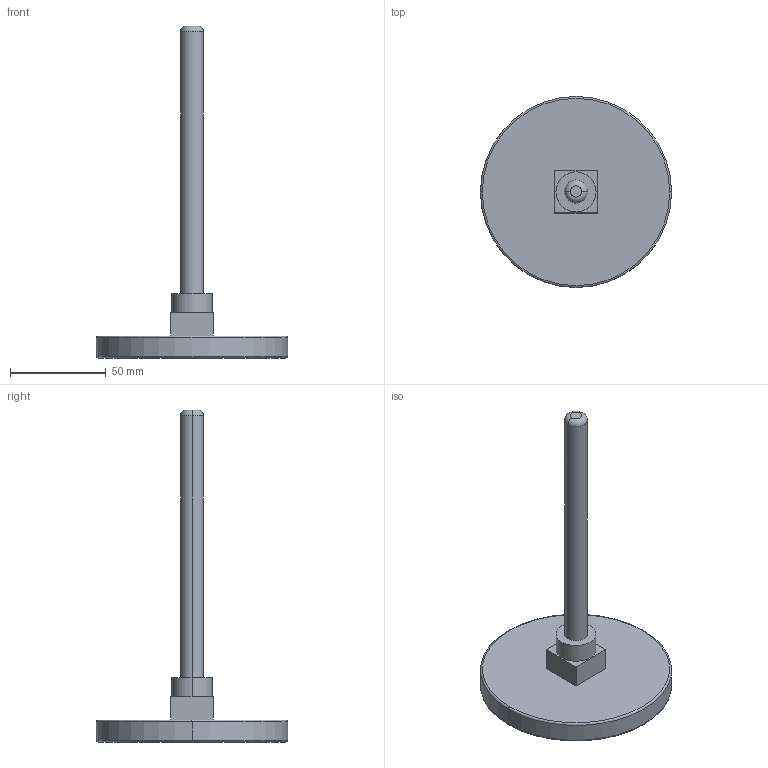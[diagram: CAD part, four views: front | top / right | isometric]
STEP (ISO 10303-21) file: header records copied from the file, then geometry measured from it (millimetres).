
FILE_DESCRIPTION (( 'STEP AP214' ), '1' );
FILE_NAME ('Termometr_bimetaliczny_63815_0_3D_AFRISO.STEP', '2022-12-19T09:03:00', ( '' ), ( '' ), 'SwSTEP 2.0', 'SolidWorks 2022', '' );
FILE_SCHEMA (( 'AUTOMOTIVE_DESIGN' ));
Length unit declared in the file: millimetre
Products named in the file (1): Termometr_bimetaliczny_63815_0_3D_AFRISO
Bounding box: 100 x 100 x 173.7 mm (x, y, z)
Volume: 115323.9 mm3; surface area: 26008.9 mm2
Topology: 1 solids, 1 shells, 21 faces, 42 edges, 26 vertices
Faces by surface type: plane 9, torus 6, cylinder 6
Entity records: 586 total; most frequent: DIRECTION 110, CARTESIAN_POINT 90, ORIENTED_EDGE 84, AXIS2_PLACEMENT_3D 46, EDGE_CURVE 42, VERTEX_POINT 26, CIRCLE 24, EDGE_LOOP 24
